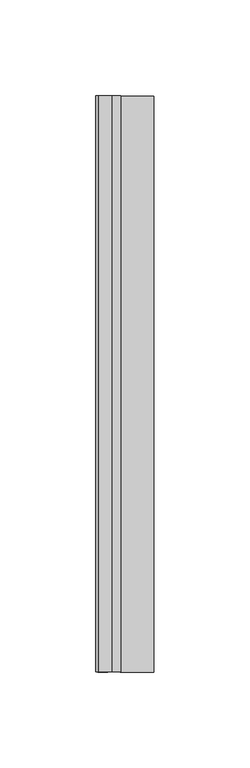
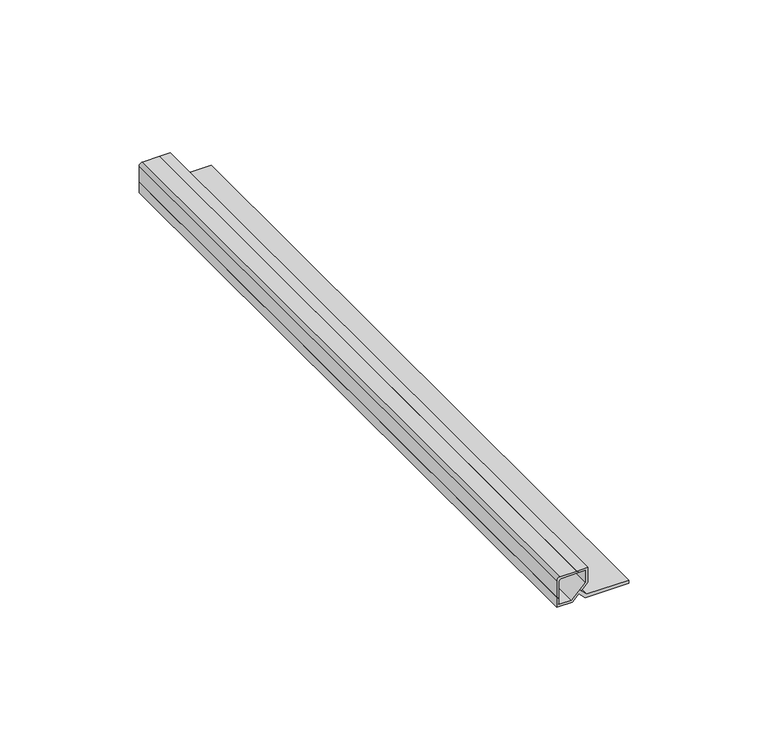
"""IFC4 building model written with IfcOpenShell, lengths in millimetres: proxy geometry, PORTOBELLO - METALLICA MET LUMI DOUBLE CORNER 1,3X120 : LUMI DOUBLE CORNER 1,3X120."""

from ifc_helpers import new_model, si_unit, point, frame, frame_2d, origin, place, context, project, spatial, polyline, circle_curve, trimmed, segment, composite_curve, outline, extrude, source, transform, mapped, element, save


def generic_models_85288f6c(model_context):
    return source(origin(), model_context, "Body", "SweptSolid", [
        extrude(outline(polyline([(1.0, 1.9743699), (0.0, 2.9743699), (0.0, 5.5), (-5.0857864, 5.5), (-11.0, -0.4142136), (-11.0, -5.5), (-8.4743699, -5.5), (-7.4743699, -6.5), (-12.0, -6.5), (-12.0, 0.0), (-9.3001402, 2.6998598), (-12.0, 5.3997197), (-12.0, 23.5), (-10.5, 23.5), (-10.5, 6.02104), (-8.23948, 3.76052), (-5.5, 6.5), (1.0, 6.5), (1.0, 1.9743699)])), frame((0.0, 300.0, 0.0), z_axis=(0.0, 1.0, 0.0), x_axis=(0.0, 0.0, 1.0)), (0.0, 0.0, 1.0), 300.0),
        extrude(outline(composite_curve([segment(polyline([(-0.3, -6.5), (-7.4743699, -6.5), (-8.4743699, -5.5), (-0.8, -5.5)]), True, "CONTINUOUS"), segment(trimmed(circle_curve(frame_2d((-0.8, -4.7)), 0.8), [point((-0.8, -5.5))], [point((0.0, -4.7))], True, "CARTESIAN"), True, "CONTINUOUS"), segment(polyline([(0.0, -4.7), (0.0, 2.9743699), (1.0, 1.9743699), (1.0, -5.2)]), True, "CONTINUOUS"), segment(trimmed(circle_curve(frame_2d((-0.3, -5.2)), 1.3), [point((1.0, -5.2))], [point((-0.3, -6.5))], False, "CARTESIAN"), True, "CONTINUOUS")], self_intersect=False)), frame((0.0, 300.0, 0.0), z_axis=(0.0, 1.0, 0.0), x_axis=(0.0, 0.0, 1.0)), (0.0, 0.0, 1.0), 300.0),
    ])


if __name__ == "__main__":
    model = new_model("IFC4")
    model_context = context("Model", 3, world=origin())
    ifc_project = project(units=[si_unit("LENGTHUNIT", "METRE", prefix="MILLI")], contexts=[model_context])
    site = spatial("IfcSite", under=ifc_project)
    building = spatial("IfcBuilding", under=site)
    placement = place(None, origin())
    generic_models_shape = generic_models_85288f6c(model_context)
    element("IfcBuildingElementProxy", 1, Name="PORTOBELLO - METALLICA MET LUMI DOUBLE CORNER 1,3X120 : LUMI DOUBLE CORNER 1,3X120", ObjectType="PORTOBELLO - METALLICA MET LUMI DOUBLE CORNER 1,3X120 : LUMI DOUBLE CORNER 1,3X120", at=placement, inside=building, context=model_context, shape_type="MappedRepresentation", body=[
        mapped(generic_models_shape, transform((0.0, 0.0, 0.0), x_axis=(1.0, 0.0, 0.0), y_axis=(0.0, 1.0, 0.0), z_axis=(0.0, 0.0, 1.0))),
    ])
    save(model, "model.ifc")
